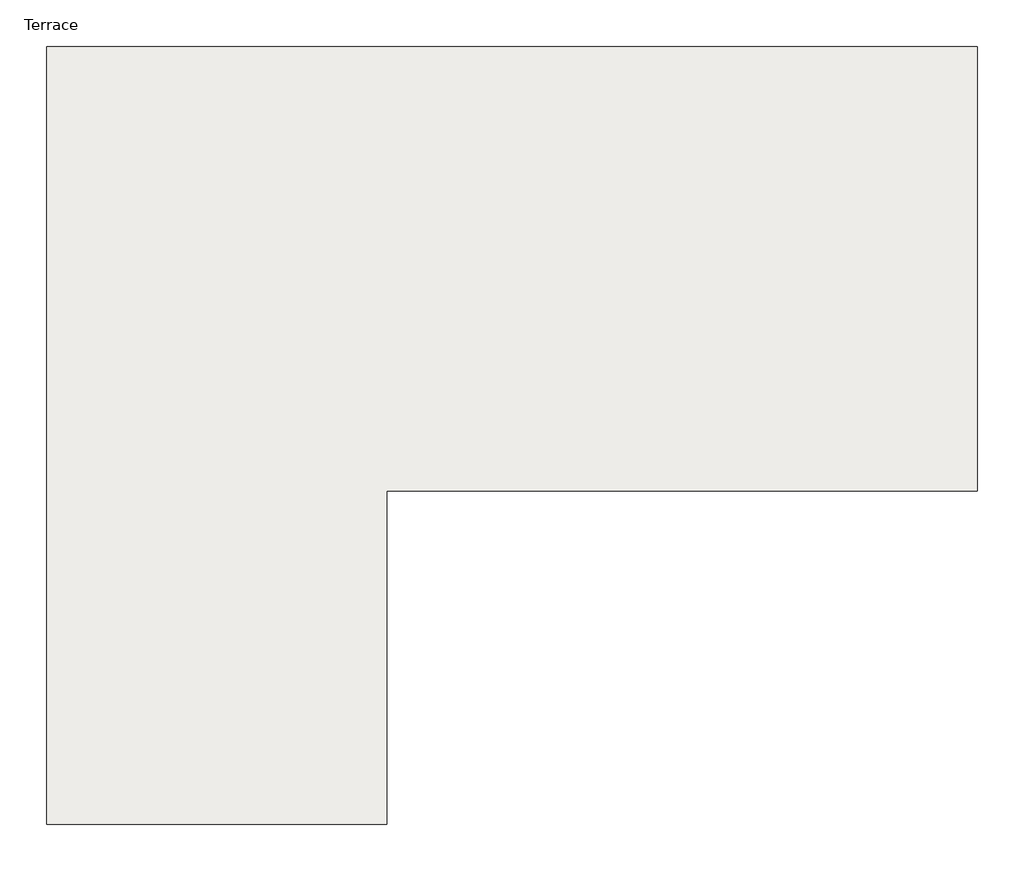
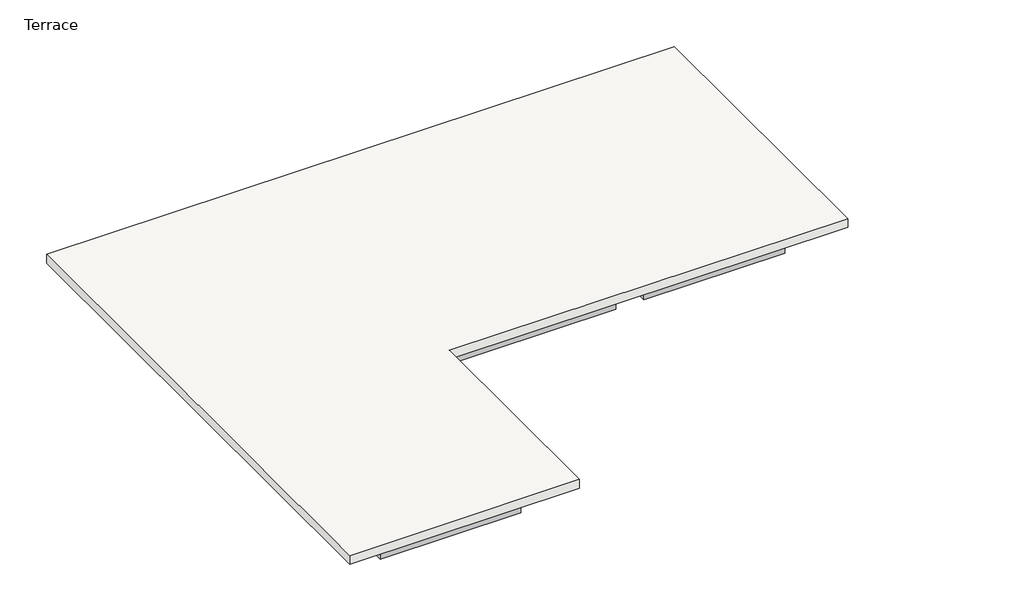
# One storey: 13 beams, 1 slab.
"""IFC4 building model written with IfcOpenShell, lengths in millimetres."""

import ifcopenshell
import ifcopenshell.guid

model = None  # the IFC model being written
_history = None  # IfcOwnerHistory: only IFC2X3 demands one
_inside = {}  # id of a spatial element -> (the spatial element, [elements in it])
_under = {}  # id of a project, library or spatial element -> (it, [spatial elements below it])
_declared = {}  # id of a project -> (the project, [libraries it declares])
_typed = {}  # id of a type object -> (the type object, [elements of that type])
_made_of = {}  # id of a material, layer set ... -> (it, [elements and type objects made of it])


def new_model(schema):
    """Start an empty IFC model of exactly this schema.

    Asked for "IFC4X3", IfcOpenShell would pick the latest addendum, in which some entities
    have other attributes; the version numbers below select the first issue.
    IFC2X3 requires an IfcOwnerHistory on every rooted entity: one is made here for all.
    """
    global model, _history
    if schema == "IFC4X3":
        model = ifcopenshell.file(schema_version=(4, 3, 0, 0))
    else:
        model = ifcopenshell.file(schema=schema)
    _inside.clear()
    _under.clear()
    _declared.clear()
    _typed.clear()
    _made_of.clear()
    _history = None
    if model.schema == "IFC2X3":
        org = make("IfcOrganization", Name="unknown")
        user = make(
            "IfcPersonAndOrganization",
            ThePerson=make("IfcPerson", FamilyName="unknown"),
            TheOrganization=org,
        )
        app = make(
            "IfcApplication",
            ApplicationDeveloper=org,
            Version="unknown",
            ApplicationFullName="unknown",
            ApplicationIdentifier="unknown",
        )
        _history = make(
            "IfcOwnerHistory",
            OwningUser=user,
            OwningApplication=app,
            ChangeAction="ADDED",
            CreationDate=0,
        )
    return model


def make(cls, **values):
    """One entity of the class cls with the attributes given. An attribute that is None is left unset."""
    return model.create_entity(
        cls, **{name: value for name, value in values.items() if value is not None}
    )


def rooted(cls, **values):
    """An entity with a GlobalId (a new one), such as an element, a storey or a relation."""
    return make(cls, GlobalId=ifcopenshell.guid.new(), OwnerHistory=_history, **values)


def si_unit(unit_type, name, prefix=None):
    """IfcSIUnit, for example si_unit("LENGTHUNIT", "METRE", prefix="MILLI")."""
    return make("IfcSIUnit", UnitType=unit_type, Prefix=prefix, Name=name)


def assignment(units):
    """IfcUnitAssignment: the units of a project."""
    return None if units is None else make("IfcUnitAssignment", Units=units)


def point(xyz):
    """IfcCartesianPoint."""
    return None if xyz is None else make("IfcCartesianPoint", Coordinates=xyz)


def direction(xyz):
    """IfcDirection."""
    return None if xyz is None else make("IfcDirection", DirectionRatios=xyz)


def frame(location, z_axis=None, x_axis=None):
    """IfcAxis2Placement3D, a coordinate frame: its origin and axes. An axis left out is left unset."""
    return make(
        "IfcAxis2Placement3D",
        Location=point(location),
        Axis=direction(z_axis),
        RefDirection=direction(x_axis),
    )


def origin():
    """The frame at (0, 0, 0) with its axes left unset."""
    return frame((0.0, 0.0, 0.0))


def place(relative_to, where):
    """IfcLocalPlacement: puts the frame where relative to a parent placement (None: the world)."""
    return make(
        "IfcLocalPlacement", PlacementRelTo=relative_to, RelativePlacement=where
    )


def context(
    kind, dimensions, precision=None, world=None, true_north=None, identifier=None
):
    """IfcGeometricRepresentationContext, for example the 3D "Model" context."""
    return make(
        "IfcGeometricRepresentationContext",
        ContextIdentifier=identifier,
        ContextType=kind,
        CoordinateSpaceDimension=dimensions,
        Precision=precision,
        WorldCoordinateSystem=world,
        TrueNorth=true_north,
    )


def project(units=None, contexts=None):
    """IfcProject with its units and contexts."""
    return rooted(
        "IfcProject",
        Name="project",
        RepresentationContexts=contexts,
        UnitsInContext=assignment(units),
    )


def spatial(cls, under=None, at=None, **own):
    """A site, building, storey or space (cls), placed at a placement, below another one or the project."""
    s = rooted(cls, ObjectPlacement=at, **own)
    if under is not None:
        _under.setdefault(under.id(), (under, []))[1].append(s)
    return s


def polyline(points):
    """IfcPolyline through the points."""
    return make("IfcPolyline", Points=[point(p) for p in points])


def outline(outer, holes=None, kind="AREA"):
    """IfcArbitraryClosedProfileDef: a profile drawn as a closed curve; with holes, ...WithVoids."""
    if holes is None:
        return make("IfcArbitraryClosedProfileDef", ProfileType=kind, OuterCurve=outer)
    return make(
        "IfcArbitraryProfileDefWithVoids",
        ProfileType=kind,
        OuterCurve=outer,
        InnerCurves=holes,
    )


def extrude(swept, where, along, depth):
    """IfcExtrudedAreaSolid: the profile swept, set in the frame where, extruded along a direction by depth."""
    return make(
        "IfcExtrudedAreaSolid",
        SweptArea=swept,
        Position=where,
        ExtrudedDirection=direction(along),
        Depth=depth,
    )


def shape(context_of_items, identifier, shape_type, items):
    """IfcShapeRepresentation: the items that make up one representation, for example the "Body"."""
    return make(
        "IfcShapeRepresentation",
        ContextOfItems=context_of_items,
        RepresentationIdentifier=identifier,
        RepresentationType=shape_type,
        Items=items,
    )


def made_of(thing, what):
    """Note that an element or type object is made of a material, layer set ...; save() writes the relation."""
    if what is not None:
        _made_of.setdefault(what.id(), (what, []))[1].append(thing)
    return thing


def element(
    cls,
    number,
    at=None,
    inside=None,
    cuts=None,
    type_object=None,
    material=None,
    context=None,
    identifier="Body",
    shape_type=None,
    held_by="IfcProductDefinitionShape",
    body=None,
    shapes=None,
    **own,
):
    """One element of the class cls, such as IfcWall. Its Tag is "e" and its number.

    at: its placement. inside: the storey or other place that contains it. cuts: it is an
    opening in that element (IfcRelVoidsElement). A single representation is given by context,
    identifier, shape_type and body (its items); several are given by shapes. held_by: the class
    of the entity that holds the representations. save() writes the other relations.
    """
    e = rooted(cls, Tag="e%d" % number, ObjectPlacement=at, **own)
    if body is not None:
        shapes = [shape(context, identifier, shape_type, body)]
    if shapes is not None:
        e.Representation = make(held_by, Representations=shapes)
    if inside is not None:
        _inside.setdefault(inside.id(), (inside, []))[1].append(e)
    if cuts is not None:
        rooted(
            "IfcRelVoidsElement", RelatingBuildingElement=cuts, RelatedOpeningElement=e
        )
    if type_object is not None:
        _typed.setdefault(type_object.id(), (type_object, []))[1].append(e)
    return made_of(e, material)


def aggregate(whole, parts):
    """IfcRelAggregates: a whole, such as a stair, and the parts it consists of."""
    return rooted("IfcRelAggregates", RelatingObject=whole, RelatedObjects=parts)


def save(model, path):
    """Write the relations noted so far, then the file.

    IfcRelAggregates (storeys below a building ...), IfcRelContainedInSpatialStructure (elements
    in a storey), IfcRelDefinesByType, IfcRelAssociatesMaterial and IfcRelDeclares: one each for
    every whole, place, type object, material and project.
    """
    for whole, parts in _under.values():
        aggregate(whole, parts)
    for where, things in _inside.values():
        rooted(
            "IfcRelContainedInSpatialStructure",
            RelatedElements=things,
            RelatingStructure=where,
        )
    for kind, things in _typed.values():
        rooted("IfcRelDefinesByType", RelatedObjects=things, RelatingType=kind)
    for what, things in _made_of.values():
        rooted("IfcRelAssociatesMaterial", RelatedObjects=things, RelatingMaterial=what)
    for by, libraries in _declared.values():
        rooted("IfcRelDeclares", RelatingContext=by, RelatedDefinitions=libraries)
    model.write(path)


model = new_model("IFC4")

# Units and contexts
model_context = context("Model", 3, world=origin())
ifc_project = project(units=[si_unit("LENGTHUNIT", "METRE", prefix="MILLI")], contexts=[model_context])

# Site, building, storey
site = spatial("IfcSite", under=ifc_project)
building = spatial("IfcBuilding", under=site)
storey = spatial("IfcBuildingStorey", under=building, Name="Terrace", Elevation=12801.6)

# Beams
placement = place(None, origin())
element("IfcBeam", 1, ObjectType="Concrete-Rectangular Beam : 12 x 24", at=placement, inside=storey, context=model_context, shape_type="SweptSolid", body=[
    extrude(outline(polyline([(-23084.018666, 15705.8753347), (-23084.018666, 16010.6753347), (-20798.018666, 16010.6753347), (-20798.018666, 15705.8753347), (-23084.018666, 15705.8753347)])), frame((0.0, 0.0, 12192.0), z_axis=(0.0, 0.0, 1.0), x_axis=(1.0, 0.0, 0.0)), (0.0, 0.0, 1.0), 457.2),
])
element("IfcBeam", 2, ObjectType="Concrete-Rectangular Beam : 12 x 24", at=placement, inside=storey, context=model_context, shape_type="SweptSolid", body=[
    extrude(outline(polyline([(-20340.818666, 15705.8753347), (-20340.818666, 16010.6753347), (-17140.418666, 16010.6753347), (-17140.418666, 15705.8753347), (-20340.818666, 15705.8753347)])), frame((0.0, 0.0, 12192.0), z_axis=(0.0, 0.0, 1.0), x_axis=(1.0, 0.0, 0.0)), (0.0, 0.0, 1.0), 457.2),
])
element("IfcBeam", 3, ObjectType="Concrete-Rectangular Beam : 12 x 24", at=placement, inside=storey, context=model_context, shape_type="SweptSolid", body=[
    extrude(outline(polyline([(-16683.218666, 15705.8753347), (-16683.218666, 16010.6753347), (-14397.218666, 16010.6753347), (-14397.218666, 15705.8753347), (-16683.218666, 15705.8753347)])), frame((0.0, 0.0, 12192.0), z_axis=(0.0, 0.0, 1.0), x_axis=(1.0, 0.0, 0.0)), (0.0, 0.0, 1.0), 457.2),
])
element("IfcBeam", 4, ObjectType="Concrete-Rectangular Beam : 12 x 24", at=placement, inside=storey, context=model_context, shape_type="SweptSolid", body=[
    extrude(outline(polyline([(-14321.018666, 15553.4753347), (-14016.218666, 15553.4753347), (-14016.218666, 12505.4753347), (-14321.018666, 12505.4753347), (-14321.018666, 15553.4753347)])), frame((0.0, 0.0, 12192.0), z_axis=(0.0, 0.0, 1.0), x_axis=(1.0, 0.0, 0.0)), (0.0, 0.0, 1.0), 457.2),
])
element("IfcBeam", 5, ObjectType="Concrete-Rectangular Beam : 12 x 24", at=placement, inside=storey, context=model_context, shape_type="SweptSolid", body=[
    extrude(outline(polyline([(-16683.218666, 12048.2753347), (-16683.218666, 12353.0753347), (-14397.218666, 12353.0753347), (-14397.218666, 12048.2753347), (-16683.218666, 12048.2753347)])), frame((0.0, 0.0, 12192.0), z_axis=(0.0, 0.0, 1.0), x_axis=(1.0, 0.0, 0.0)), (0.0, 0.0, 1.0), 457.2),
])
element("IfcBeam", 6, ObjectType="Concrete-Rectangular Beam : 12 x 24", at=placement, inside=storey, context=model_context, shape_type="SweptSolid", body=[
    extrude(outline(polyline([(-20340.818666, 12048.2753347), (-20340.818666, 12353.0753347), (-17140.418666, 12353.0753347), (-17140.418666, 12048.2753347), (-20340.818666, 12048.2753347)])), frame((0.0, 0.0, 12192.0), z_axis=(0.0, 0.0, 1.0), x_axis=(1.0, 0.0, 0.0)), (0.0, 0.0, 1.0), 457.2),
])
element("IfcBeam", 7, ObjectType="Concrete-Rectangular Beam : 12 x 24", at=placement, inside=storey, context=model_context, shape_type="SweptSolid", body=[
    extrude(outline(polyline([(-23084.018666, 12048.2753347), (-23084.018666, 12353.0753347), (-20798.018666, 12353.0753347), (-20798.018666, 12048.2753347), (-23084.018666, 12048.2753347)])), frame((0.0, 0.0, 12192.0), z_axis=(0.0, 0.0, 1.0), x_axis=(1.0, 0.0, 0.0)), (0.0, 0.0, 1.0), 457.2),
])
element("IfcBeam", 8, ObjectType="Concrete-Rectangular Beam : 12 x 24", at=placement, inside=storey, context=model_context, shape_type="SweptSolid", body=[
    extrude(outline(polyline([(-23465.018666, 15553.4753347), (-23160.218666, 15553.4753347), (-23160.218666, 12505.4753347), (-23465.018666, 12505.4753347), (-23465.018666, 15553.4753347)])), frame((0.0, 0.0, 12192.0), z_axis=(0.0, 0.0, 1.0), x_axis=(1.0, 0.0, 0.0)), (0.0, 0.0, 1.0), 457.2),
])
element("IfcBeam", 9, ObjectType="Concrete-Rectangular Beam : 12 x 24", at=placement, inside=storey, context=model_context, shape_type="SweptSolid", body=[
    extrude(outline(polyline([(-23465.018666, 11895.8753347), (-23160.218666, 11895.8753347), (-23160.218666, 8847.8753347), (-23465.018666, 8847.8753347), (-23465.018666, 11895.8753347)])), frame((0.0, 0.0, 12192.0), z_axis=(0.0, 0.0, 1.0), x_axis=(1.0, 0.0, 0.0)), (0.0, 0.0, 1.0), 457.2),
])
element("IfcBeam", 10, ObjectType="Concrete-Rectangular Beam : 12 x 24", at=placement, inside=storey, context=model_context, shape_type="SweptSolid", body=[
    extrude(outline(polyline([(-23084.018666, 8390.6753347), (-23084.018666, 8695.4753347), (-20798.018666, 8695.4753347), (-20798.018666, 8390.6753347), (-23084.018666, 8390.6753347)])), frame((0.0, 0.0, 12192.0), z_axis=(0.0, 0.0, 1.0), x_axis=(1.0, 0.0, 0.0)), (0.0, 0.0, 1.0), 457.2),
])
element("IfcBeam", 11, ObjectType="Concrete-Rectangular Beam : 12 x 24", at=placement, inside=storey, context=model_context, shape_type="SweptSolid", body=[
    extrude(outline(polyline([(-20721.818666, 11895.8753347), (-20417.018666, 11895.8753347), (-20417.018666, 8847.8753347), (-20721.818666, 8847.8753347), (-20721.818666, 11895.8753347)])), frame((0.0, 0.0, 12192.0), z_axis=(0.0, 0.0, 1.0), x_axis=(1.0, 0.0, 0.0)), (0.0, 0.0, 1.0), 457.2),
])
element("IfcBeam", 12, ObjectType="Concrete-Rectangular Beam : 12 x 24", at=placement, inside=storey, context=model_context, shape_type="SweptSolid", body=[
    extrude(outline(polyline([(-20721.818666, 15553.4753347), (-20417.018666, 15553.4753347), (-20417.018666, 12505.4753347), (-20721.818666, 12505.4753347), (-20721.818666, 15553.4753347)])), frame((0.0, 0.0, 12192.0), z_axis=(0.0, 0.0, 1.0), x_axis=(1.0, 0.0, 0.0)), (0.0, 0.0, 1.0), 457.2),
])
element("IfcBeam", 13, ObjectType="Concrete-Rectangular Beam : 12 x 24", at=placement, inside=storey, context=model_context, shape_type="SweptSolid", body=[
    extrude(outline(polyline([(-17064.218666, 15553.4753347), (-16759.418666, 15553.4753347), (-16759.418666, 12505.4753347), (-17064.218666, 12505.4753347), (-17064.218666, 15553.4753347)])), frame((0.0, 0.0, 12192.0), z_axis=(0.0, 0.0, 1.0), x_axis=(1.0, 0.0, 0.0)), (0.0, 0.0, 1.0), 457.2),
])

# Slab
element("IfcSlab", 14, ObjectType="6\" Concrete", at=placement, inside=storey, context=model_context, shape_type="SweptSolid", body=[
    extrude(outline(polyline([(-20112.218666, 11591.0753347), (-20112.218666, 7933.4753347), (-23846.018666, 7933.4753347), (-23846.018666, 16467.8753347), (-13635.218666, 16467.8753347), (-13635.218666, 11591.0753347), (-20112.218666, 11591.0753347)])), frame((0.0, 0.0, 12649.2), z_axis=(0.0, 0.0, 1.0), x_axis=(1.0, 0.0, 0.0)), (0.0, 0.0, 1.0), 152.4),
])

save(model, "model.ifc")
